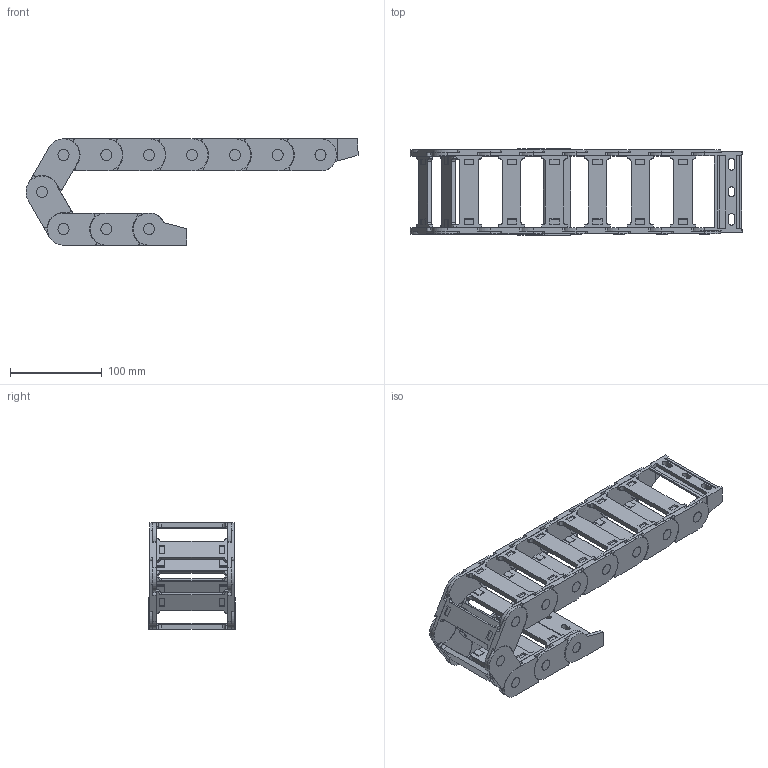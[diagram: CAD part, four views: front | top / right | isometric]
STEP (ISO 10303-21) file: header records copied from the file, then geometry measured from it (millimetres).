
FILE_DESCRIPTION((''),'2;1');
FILE_NAME('QS-25X77-R40_ASM','2022-06-08T09:54:01',('admin'),(''),'CREO PARAMETRIC BY PTC INC, 2021164','CREO PARAMETRIC BY PTC INC, 2021164','');
FILE_SCHEMA(('CONFIG_CONTROL_DESIGN','GEOMETRIC_VALIDATION_PROPERTIES_MIM'));
Length unit declared in the file: millimetre
Products named in the file (7): 25XL-L; 25XL-R; PIAN-25; ASM0001_ASM; 25X77-LTT-1; 25X77-LTT-2; QS-25X77-R40_ASM
Assembly tree (16 placements, depth 3):
  QS-25X77-R40_ASM
    ASM0001_ASM  x10
      25XL-L
      25XL-R
      PIAN-25
    25X77-LTT-1
    25X77-LTT-2
Bounding box: 361.2 x 93.6 x 115.71 mm (x, y, z)
Volume: 420374.7 mm3; surface area: 253082 mm2
Topology: 42 solids, 42 shells, 1652 faces, 4706 edges, 3162 vertices
Faces by surface type: plane 1268, cylinder 384
Entity records: 8445 total; most frequent: CARTESIAN_POINT 1339, DIRECTION 1194, ORIENTED_EDGE 1192, EDGE_CURVE 596, VECTOR 464, LINE 464, VERTEX_POINT 404, AXIS2_PLACEMENT_3D 365
